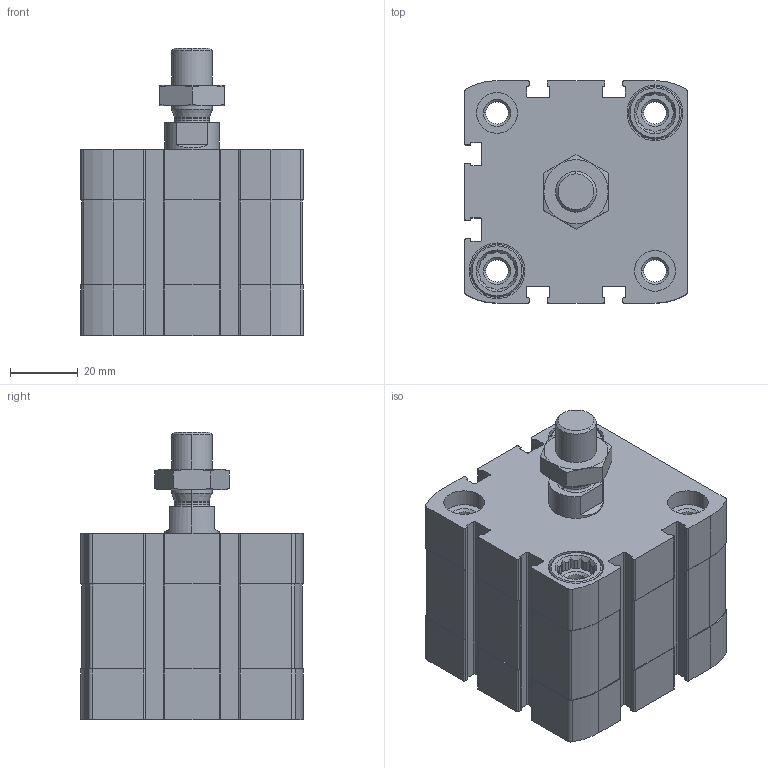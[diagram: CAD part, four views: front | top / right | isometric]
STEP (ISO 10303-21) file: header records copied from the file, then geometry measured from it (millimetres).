
FILE_DESCRIPTION (( 'STEP AP203' ), '1' );
FILE_NAME ('CCN50-10M.STEP', '2017-04-05T13:03:44', ( '' ), ( '' ), 'SwSTEP 2.0', 'SolidWorks 2016', '' );
FILE_SCHEMA (( 'CONFIG_CONTROL_DESIGN' ));
Length unit declared in the file: millimetre
Products named in the file (4): CCN-10----(Z); CCN-10_(KS); _DIN-439-B - M12x1.25(F); CCN50-10M
Assembly tree (3 placements, depth 2):
  CCN50-10M
    CCN-10----(Z)
    CCN-10_(KS)
    _DIN-439-B - M12x1.25(F)
Bounding box: 65.5 x 65.5 x 84.7 mm (x, y, z)
Volume: 196635.6 mm3; surface area: 52033.9 mm2
Topology: 3 solids, 3 shells, 491 faces, 1318 edges, 864 vertices
Faces by surface type: plane 227, cylinder 212, cone 48, bspline 4
Entity records: 16092 total; most frequent: CARTESIAN_POINT 3139, DIRECTION 2676, ORIENTED_EDGE 2636, EDGE_CURVE 1318, AXIS2_PLACEMENT_3D 979, VERTEX_POINT 864, LINE 718, VECTOR 718
